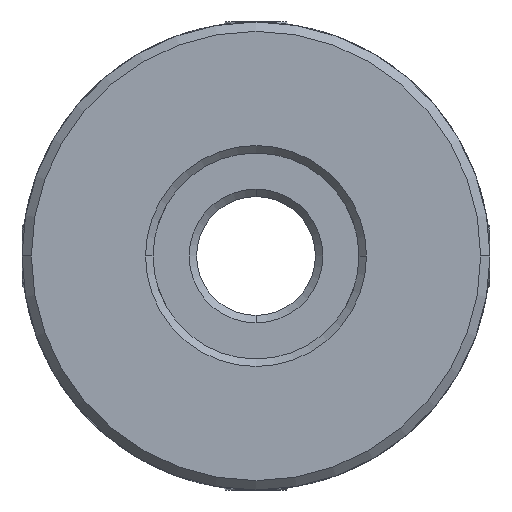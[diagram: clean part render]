
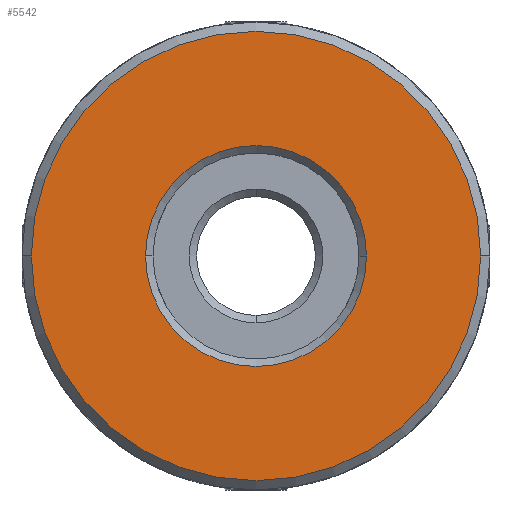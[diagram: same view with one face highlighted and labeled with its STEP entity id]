
A CAD part, front view. The second image highlights one B-rep face of the part: STEP entity #5542.
In plain terms, the highlighted planar face has unit normal (0, -1, 0).
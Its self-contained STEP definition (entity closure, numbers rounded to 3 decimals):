
#104 = CIRCLE ( 'NONE', #7307, 12. ) ;
#136 = CIRCLE ( 'NONE', #8619, 5.9 ) ;
#192 = CARTESIAN_POINT ( 'NONE',  ( 0., -28., 0. ) ) ;
#348 = CARTESIAN_POINT ( 'NONE',  ( 0., -28., 0. ) ) ;
#758 = VERTEX_POINT ( 'NONE', #8214 ) ;
#868 = CIRCLE ( 'NONE', #7550, 12. ) ;
#983 = FACE_OUTER_BOUND ( 'NONE', #2897, .T. ) ;
#1347 = DIRECTION ( 'NONE',  ( -1., 0., 0. ) ) ;
#1723 = ORIENTED_EDGE ( 'NONE', *, *, #4744, .T. ) ;
#2019 = DIRECTION ( 'NONE',  ( 0., 1., 0. ) ) ;
#2118 = CARTESIAN_POINT ( 'NONE',  ( 5.9, -28., 0. ) ) ;
#2374 = DIRECTION ( 'NONE',  ( -1., 0., 0. ) ) ;
#2578 = EDGE_LOOP ( 'NONE', ( #3719, #1723 ) ) ;
#2750 = DIRECTION ( 'NONE',  ( -1., 0., 0. ) ) ;
#2824 = CARTESIAN_POINT ( 'NONE',  ( -12., -28., 0. ) ) ;
#2897 = EDGE_LOOP ( 'NONE', ( #2994, #4274 ) ) ;
#2994 = ORIENTED_EDGE ( 'NONE', *, *, #5199, .T. ) ;
#3237 = AXIS2_PLACEMENT_3D ( 'NONE', #8947, #4451, #4383 ) ;
#3385 = CIRCLE ( 'NONE', #3237, 5.9 ) ;
#3503 = DIRECTION ( 'NONE',  ( 0., 1., 0. ) ) ;
#3665 = CARTESIAN_POINT ( 'NONE',  ( -19.597, -28., -50. ) ) ;
#3719 = ORIENTED_EDGE ( 'NONE', *, *, #6399, .T. ) ;
#4249 = CARTESIAN_POINT ( 'NONE',  ( 12., -28., 0. ) ) ;
#4274 = ORIENTED_EDGE ( 'NONE', *, *, #9060, .T. ) ;
#4383 = DIRECTION ( 'NONE',  ( -1., 0., 0. ) ) ;
#4422 = AXIS2_PLACEMENT_3D ( 'NONE', #3665, #2019, #2750 ) ;
#4451 = DIRECTION ( 'NONE',  ( 0., 1., 0. ) ) ;
#4744 = EDGE_CURVE ( 'NONE', #758, #4888, #3385, .T. ) ;
#4888 = VERTEX_POINT ( 'NONE', #2118 ) ;
#5199 = EDGE_CURVE ( 'NONE', #8564, #6515, #868, .T. ) ;
#5542 = ADVANCED_FACE ( 'NONE', ( #983, #9593 ), #8899, .F. ) ;
#6029 = DIRECTION ( 'NONE',  ( 0., -1., 0. ) ) ;
#6399 = EDGE_CURVE ( 'NONE', #4888, #758, #136, .T. ) ;
#6515 = VERTEX_POINT ( 'NONE', #4249 ) ;
#7307 = AXIS2_PLACEMENT_3D ( 'NONE', #8238, #6029, #1347 ) ;
#7550 = AXIS2_PLACEMENT_3D ( 'NONE', #192, #9392, #2374 ) ;
#8214 = CARTESIAN_POINT ( 'NONE',  ( -5.9, -28., 0. ) ) ;
#8238 = CARTESIAN_POINT ( 'NONE',  ( 0., -28., 0. ) ) ;
#8564 = VERTEX_POINT ( 'NONE', #2824 ) ;
#8619 = AXIS2_PLACEMENT_3D ( 'NONE', #348, #3503, #8851 ) ;
#8851 = DIRECTION ( 'NONE',  ( -1., 0., 0. ) ) ;
#8899 = PLANE ( 'NONE',  #4422 ) ;
#8947 = CARTESIAN_POINT ( 'NONE',  ( 0., -28., 0. ) ) ;
#9060 = EDGE_CURVE ( 'NONE', #6515, #8564, #104, .T. ) ;
#9392 = DIRECTION ( 'NONE',  ( 0., -1., 0. ) ) ;
#9593 = FACE_BOUND ( 'NONE', #2578, .T. ) ;
